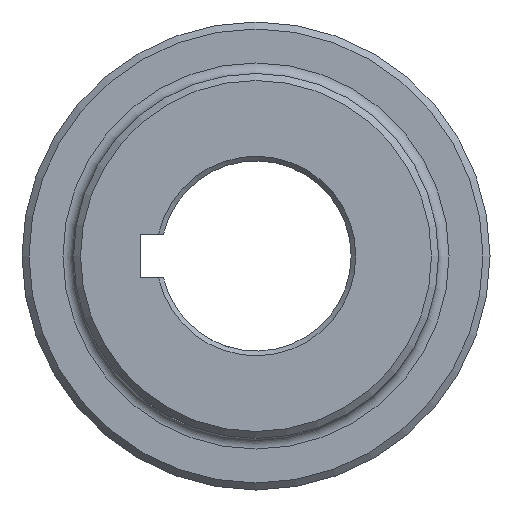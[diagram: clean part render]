
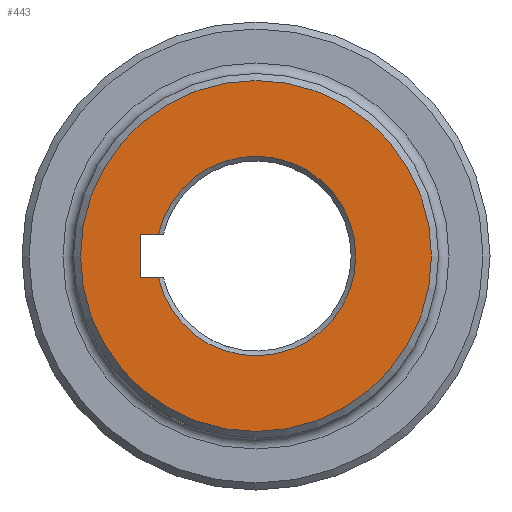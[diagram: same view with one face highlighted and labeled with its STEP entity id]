
A CAD part, left-side view. The second image highlights one B-rep face of the part: STEP entity #443.
In plain terms, the highlighted planar face has unit normal (-1, 0, 0).
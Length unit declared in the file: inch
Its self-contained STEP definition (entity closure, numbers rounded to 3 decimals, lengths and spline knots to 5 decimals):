
#27 = VECTOR ( 'NONE', #1629, 39.37008 ) ;
#54 = DIRECTION ( 'NONE',  ( -1., 0., 0. ) ) ;
#73 = EDGE_CURVE ( 'NONE', #1563, #1563, #1880, .T. ) ;
#114 = CARTESIAN_POINT ( 'NONE',  ( 0., 0., 0.1875 ) ) ;
#126 = DIRECTION ( 'NONE',  ( 0., 0., -1. ) ) ;
#155 = ORIENTED_EDGE ( 'NONE', *, *, #868, .F. ) ;
#158 = CARTESIAN_POINT ( 'NONE',  ( 0., 0.83188, -0.1875 ) ) ;
#168 = DIRECTION ( 'NONE',  ( 0., 0., -1. ) ) ;
#169 = AXIS2_PLACEMENT_3D ( 'NONE', #274, #54, #1333 ) ;
#274 = CARTESIAN_POINT ( 'NONE',  ( 0., 0., 0. ) ) ;
#289 = FACE_BOUND ( 'NONE', #1108, .T. ) ;
#311 = AXIS2_PLACEMENT_3D ( 'NONE', #1085, #2056, #168 ) ;
#348 = CARTESIAN_POINT ( 'NONE',  ( 0., 0., 0. ) ) ;
#360 = EDGE_CURVE ( 'NONE', #1714, #2255, #1239, .T. ) ;
#362 = CARTESIAN_POINT ( 'NONE',  ( 0., 0., -0.1875 ) ) ;
#364 = LINE ( 'NONE', #114, #27 ) ;
#397 = VECTOR ( 'NONE', #126, 39.37008 ) ;
#439 = AXIS2_PLACEMENT_3D ( 'NONE', #348, #1152, #1536 ) ;
#443 = ADVANCED_FACE ( 'NONE', ( #1227, #289 ), #986, .F. ) ;
#450 = EDGE_LOOP ( 'NONE', ( #593 ) ) ;
#578 = CARTESIAN_POINT ( 'NONE',  ( 0., 0.98325, -0.1875 ) ) ;
#593 = ORIENTED_EDGE ( 'NONE', *, *, #73, .T. ) ;
#609 = CARTESIAN_POINT ( 'NONE',  ( 0., 0., -1.5 ) ) ;
#705 = ORIENTED_EDGE ( 'NONE', *, *, #1517, .T. ) ;
#728 = CIRCLE ( 'NONE', #311, 0.85275 ) ;
#757 = VERTEX_POINT ( 'NONE', #1242 ) ;
#868 = EDGE_CURVE ( 'NONE', #1764, #1714, #1930, .T. ) ;
#986 = PLANE ( 'NONE',  #439 ) ;
#1085 = CARTESIAN_POINT ( 'NONE',  ( 0., 0., 0. ) ) ;
#1108 = EDGE_LOOP ( 'NONE', ( #2232, #705, #1945, #155 ) ) ;
#1152 = DIRECTION ( 'NONE',  ( 1., 0., 0. ) ) ;
#1194 = EDGE_CURVE ( 'NONE', #757, #1764, #364, .T. ) ;
#1227 = FACE_OUTER_BOUND ( 'NONE', #450, .T. ) ;
#1239 = LINE ( 'NONE', #362, #1640 ) ;
#1242 = CARTESIAN_POINT ( 'NONE',  ( 0., 0.83188, 0.1875 ) ) ;
#1333 = DIRECTION ( 'NONE',  ( 0., 0., -1. ) ) ;
#1419 = CARTESIAN_POINT ( 'NONE',  ( 0., 0.98325, -0.1875 ) ) ;
#1517 = EDGE_CURVE ( 'NONE', #757, #2255, #728, .T. ) ;
#1536 = DIRECTION ( 'NONE',  ( 0., 0., -1. ) ) ;
#1563 = VERTEX_POINT ( 'NONE', #609 ) ;
#1592 = DIRECTION ( 'NONE',  ( 0., -1., 0. ) ) ;
#1629 = DIRECTION ( 'NONE',  ( 0., 1., 0. ) ) ;
#1640 = VECTOR ( 'NONE', #1592, 39.37008 ) ;
#1714 = VERTEX_POINT ( 'NONE', #578 ) ;
#1764 = VERTEX_POINT ( 'NONE', #1772 ) ;
#1772 = CARTESIAN_POINT ( 'NONE',  ( 0., 0.98325, 0.1875 ) ) ;
#1880 = CIRCLE ( 'NONE', #169, 1.5 ) ;
#1930 = LINE ( 'NONE', #1419, #397 ) ;
#1945 = ORIENTED_EDGE ( 'NONE', *, *, #360, .F. ) ;
#2056 = DIRECTION ( 'NONE',  ( 1., 0., 0. ) ) ;
#2232 = ORIENTED_EDGE ( 'NONE', *, *, #1194, .F. ) ;
#2255 = VERTEX_POINT ( 'NONE', #158 ) ;
